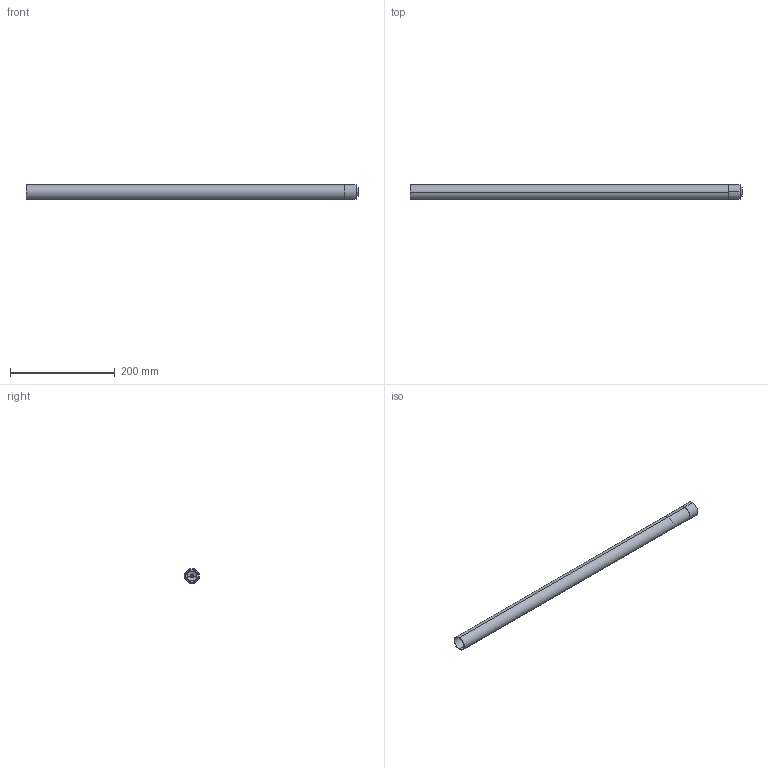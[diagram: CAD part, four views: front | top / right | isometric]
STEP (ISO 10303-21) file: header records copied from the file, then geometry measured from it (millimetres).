
FILE_DESCRIPTION (( 'STEP AP214' ), '1' );
FILE_NAME ('Hex Bossed Threaded End Connector.STEP', '2013-09-09T16:04:21', ( 'ydmin' ), ( 'Microsoft' ), 'SwSTEP 2.0', 'SolidWorks 2013', '' );
FILE_SCHEMA (( 'AUTOMOTIVE_DESIGN' ));
Length unit declared in the file: inch
Products named in the file (3): Hex Bossed Threaded End Connector; DRP-002-0547-00; 6.000 Inch Tube
Assembly tree (2 placements, depth 2):
  Hex Bossed Threaded End Connector
    DRP-002-0547-00
    6.000 Inch Tube
Bounding box: 635 x 28.57 x 28.57 mm (x, y, z)
Volume: 74709.2 mm3; surface area: 112578.4 mm2
Topology: 3 solids, 3 shells, 45 faces, 107 edges, 70 vertices
Faces by surface type: cylinder 19, plane 14, bspline 8, torus 2, cone 2
Entity records: 3451 total; most frequent: CARTESIAN_POINT 1771, DIRECTION 227, ORIENTED_EDGE 214, EDGE_CURVE 107, AXIS2_PLACEMENT_3D 86, VERTEX_POINT 70, LINE 55, VECTOR 55
